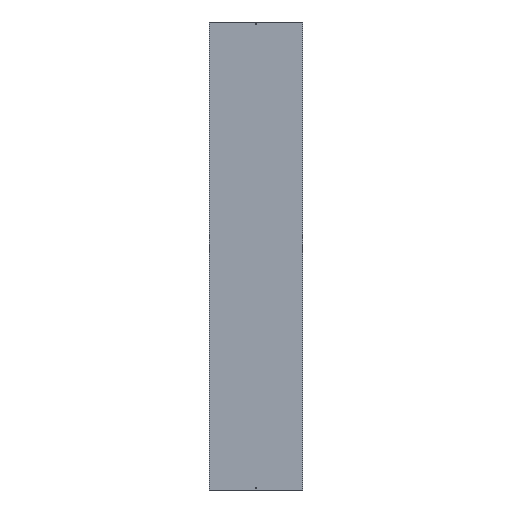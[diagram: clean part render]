
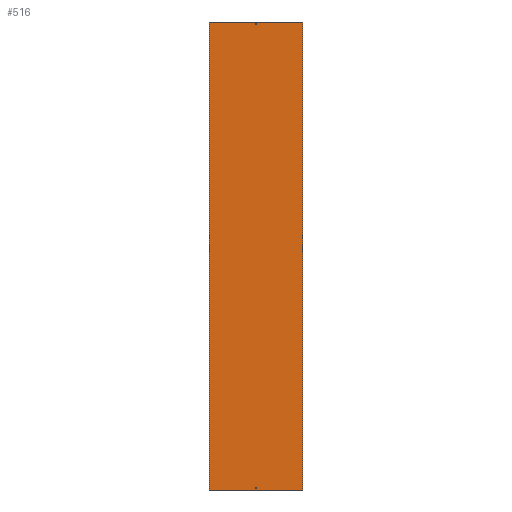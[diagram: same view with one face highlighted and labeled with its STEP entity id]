
A CAD part, front view. The second image highlights one B-rep face of the part: STEP entity #516.
In plain terms, the highlighted planar face has unit normal (0, -1, 0).
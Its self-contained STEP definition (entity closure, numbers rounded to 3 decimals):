
#3 = EDGE_CURVE ( 'NONE', #310, #223, #135, .T. ) ;
#11 = LINE ( 'NONE', #112, #434 ) ;
#29 = DIRECTION ( 'NONE',  ( 0., -1., 0. ) ) ;
#39 = EDGE_CURVE ( 'NONE', #44, #310, #370, .T. ) ;
#41 = CARTESIAN_POINT ( 'NONE',  ( -301., -1., 1500. ) ) ;
#44 = VERTEX_POINT ( 'NONE', #433 ) ;
#45 = CARTESIAN_POINT ( 'NONE',  ( -301., -1., -1481.5 ) ) ;
#54 = LINE ( 'NONE', #62, #574 ) ;
#57 = DIRECTION ( 'NONE',  ( 0., 0., -1. ) ) ;
#62 = CARTESIAN_POINT ( 'NONE',  ( 3., -1., 1500. ) ) ;
#70 = EDGE_CURVE ( 'NONE', #349, #124, #54, .T. ) ;
#73 = VERTEX_POINT ( 'NONE', #558 ) ;
#77 = ORIENTED_EDGE ( 'NONE', *, *, #96, .F. ) ;
#84 = DIRECTION ( 'NONE',  ( 1., 0., 0. ) ) ;
#86 = CARTESIAN_POINT ( 'NONE',  ( 300., -1., 1500. ) ) ;
#87 = EDGE_CURVE ( 'NONE', #406, #533, #149, .T. ) ;
#89 = ORIENTED_EDGE ( 'NONE', *, *, #415, .F. ) ;
#96 = EDGE_CURVE ( 'NONE', #429, #229, #339, .T. ) ;
#97 = ORIENTED_EDGE ( 'NONE', *, *, #3, .T. ) ;
#104 = CARTESIAN_POINT ( 'NONE',  ( -3., -1., 1500. ) ) ;
#105 = LINE ( 'NONE', #338, #506 ) ;
#107 = EDGE_LOOP ( 'NONE', ( #416, #362, #494, #528 ) ) ;
#108 = CARTESIAN_POINT ( 'NONE',  ( 300., -1., 1500. ) ) ;
#112 = CARTESIAN_POINT ( 'NONE',  ( -301., -1., -1488.5 ) ) ;
#116 = ORIENTED_EDGE ( 'NONE', *, *, #379, .T. ) ;
#124 = VERTEX_POINT ( 'NONE', #478 ) ;
#127 = VECTOR ( 'NONE', #57, 1000. ) ;
#131 = EDGE_CURVE ( 'NONE', #223, #284, #297, .T. ) ;
#135 = LINE ( 'NONE', #45, #581 ) ;
#139 = AXIS2_PLACEMENT_3D ( 'NONE', #167, #29, #353 ) ;
#147 = VECTOR ( 'NONE', #442, 1000. ) ;
#149 = LINE ( 'NONE', #481, #315 ) ;
#155 = DIRECTION ( 'NONE',  ( -1., 0., 0. ) ) ;
#167 = CARTESIAN_POINT ( 'NONE',  ( -301., -1., 1500. ) ) ;
#170 = FACE_BOUND ( 'NONE', #318, .T. ) ;
#173 = ORIENTED_EDGE ( 'NONE', *, *, #131, .T. ) ;
#184 = EDGE_CURVE ( 'NONE', #438, #406, #463, .T. ) ;
#190 = CARTESIAN_POINT ( 'NONE',  ( 3., -1., -1488.5 ) ) ;
#192 = ORIENTED_EDGE ( 'NONE', *, *, #39, .T. ) ;
#196 = VECTOR ( 'NONE', #550, 1000. ) ;
#199 = DIRECTION ( 'NONE',  ( 0., 0., 1. ) ) ;
#203 = LINE ( 'NONE', #303, #147 ) ;
#219 = EDGE_CURVE ( 'NONE', #438, #73, #588, .T. ) ;
#223 = VERTEX_POINT ( 'NONE', #227 ) ;
#227 = CARTESIAN_POINT ( 'NONE',  ( 3., -1., -1481.5 ) ) ;
#229 = VERTEX_POINT ( 'NONE', #417 ) ;
#250 = FACE_BOUND ( 'NONE', #266, .T. ) ;
#259 = EDGE_CURVE ( 'NONE', #229, #349, #460, .T. ) ;
#266 = EDGE_LOOP ( 'NONE', ( #77, #89, #392, #445 ) ) ;
#273 = DIRECTION ( 'NONE',  ( 0., 0., -1. ) ) ;
#274 = CARTESIAN_POINT ( 'NONE',  ( -3., -1., -1481.5 ) ) ;
#284 = VERTEX_POINT ( 'NONE', #190 ) ;
#285 = DIRECTION ( 'NONE',  ( 1., 0., 0. ) ) ;
#293 = DIRECTION ( 'NONE',  ( 0., 0., -1. ) ) ;
#297 = LINE ( 'NONE', #471, #127 ) ;
#300 = CARTESIAN_POINT ( 'NONE',  ( -300., -1., 1500. ) ) ;
#303 = CARTESIAN_POINT ( 'NONE',  ( -301., -1., -1500. ) ) ;
#310 = VERTEX_POINT ( 'NONE', #274 ) ;
#315 = VECTOR ( 'NONE', #335, 1000. ) ;
#318 = EDGE_LOOP ( 'NONE', ( #116, #192, #97, #173 ) ) ;
#335 = DIRECTION ( 'NONE',  ( 0., 0., -1. ) ) ;
#338 = CARTESIAN_POINT ( 'NONE',  ( -301., -1., 1488.5 ) ) ;
#339 = LINE ( 'NONE', #104, #346 ) ;
#346 = VECTOR ( 'NONE', #293, 1000. ) ;
#349 = VERTEX_POINT ( 'NONE', #368 ) ;
#353 = DIRECTION ( 'NONE',  ( 0., 0., -1. ) ) ;
#362 = ORIENTED_EDGE ( 'NONE', *, *, #219, .F. ) ;
#365 = VECTOR ( 'NONE', #410, 1000. ) ;
#368 = CARTESIAN_POINT ( 'NONE',  ( 3., -1., 1481.5 ) ) ;
#370 = LINE ( 'NONE', #425, #196 ) ;
#379 = EDGE_CURVE ( 'NONE', #284, #44, #11, .T. ) ;
#392 = ORIENTED_EDGE ( 'NONE', *, *, #70, .F. ) ;
#406 = VERTEX_POINT ( 'NONE', #300 ) ;
#408 = CARTESIAN_POINT ( 'NONE',  ( -300., -1., -1500. ) ) ;
#410 = DIRECTION ( 'NONE',  ( -1., 0., 0. ) ) ;
#413 = EDGE_CURVE ( 'NONE', #73, #533, #203, .T. ) ;
#415 = EDGE_CURVE ( 'NONE', #124, #429, #105, .T. ) ;
#416 = ORIENTED_EDGE ( 'NONE', *, *, #413, .F. ) ;
#417 = CARTESIAN_POINT ( 'NONE',  ( -3., -1., 1481.5 ) ) ;
#425 = CARTESIAN_POINT ( 'NONE',  ( -3., -1., 1500. ) ) ;
#429 = VERTEX_POINT ( 'NONE', #524 ) ;
#433 = CARTESIAN_POINT ( 'NONE',  ( -3., -1., -1488.5 ) ) ;
#434 = VECTOR ( 'NONE', #520, 1000. ) ;
#438 = VERTEX_POINT ( 'NONE', #108 ) ;
#439 = FACE_OUTER_BOUND ( 'NONE', #107, .T. ) ;
#442 = DIRECTION ( 'NONE',  ( -1., 0., 0. ) ) ;
#444 = VECTOR ( 'NONE', #285, 1000. ) ;
#445 = ORIENTED_EDGE ( 'NONE', *, *, #259, .F. ) ;
#448 = PLANE ( 'NONE',  #139 ) ;
#460 = LINE ( 'NONE', #591, #444 ) ;
#463 = LINE ( 'NONE', #41, #365 ) ;
#471 = CARTESIAN_POINT ( 'NONE',  ( 3., -1., 1500. ) ) ;
#478 = CARTESIAN_POINT ( 'NONE',  ( 3., -1., 1488.5 ) ) ;
#481 = CARTESIAN_POINT ( 'NONE',  ( -300., -1., 1500. ) ) ;
#494 = ORIENTED_EDGE ( 'NONE', *, *, #184, .T. ) ;
#506 = VECTOR ( 'NONE', #155, 1000. ) ;
#516 = ADVANCED_FACE ( 'NONE', ( #250, #439, #170 ), #448, .T. ) ;
#520 = DIRECTION ( 'NONE',  ( -1., 0., 0. ) ) ;
#524 = CARTESIAN_POINT ( 'NONE',  ( -3., -1., 1488.5 ) ) ;
#528 = ORIENTED_EDGE ( 'NONE', *, *, #87, .T. ) ;
#533 = VERTEX_POINT ( 'NONE', #408 ) ;
#542 = VECTOR ( 'NONE', #273, 1000. ) ;
#550 = DIRECTION ( 'NONE',  ( 0., 0., 1. ) ) ;
#558 = CARTESIAN_POINT ( 'NONE',  ( 300., -1., -1500. ) ) ;
#574 = VECTOR ( 'NONE', #199, 1000. ) ;
#581 = VECTOR ( 'NONE', #84, 1000. ) ;
#588 = LINE ( 'NONE', #86, #542 ) ;
#591 = CARTESIAN_POINT ( 'NONE',  ( -301., -1., 1481.5 ) ) ;
